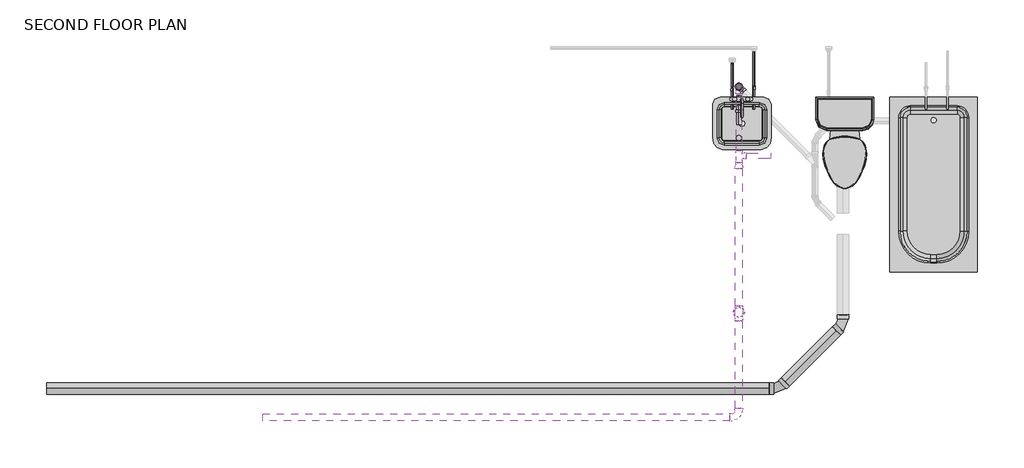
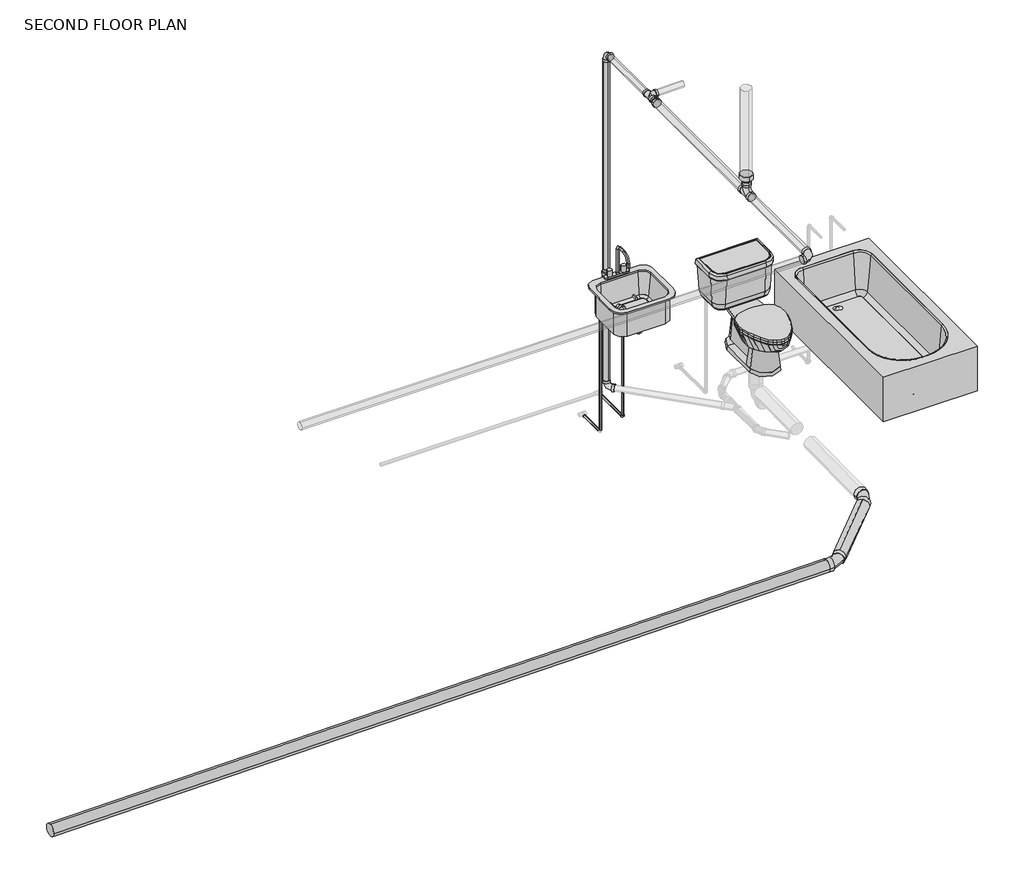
# One storey, part 1 of 2: 20 pipe segments, 15 pipe fittings, 3 flow terminals.
"""IFC4 building model written with IfcOpenShell, lengths in millimetres."""

from ifc_helpers import new_model, si_unit, point, frame, frame_2d, origin, place, context, project, spatial, circle_curve, trimmed, segment, composite_curve, outline, extrude, transform, mapped, element, save
from components import flow_terminal_62a433f7, toilet_domestic_3d1_toilet_domestic_3d_f7549cf7, toilet_domestic_3d1_toilet_domestic_3d_183bbd19, tub_rectangular_3d_tub_rectangular_5_8ae3ddee, bend_pvc_sch_40_dwv_standard_738aab8b, bend_pvc_sch_40_dwv_standard_cc7cb89c, bend_pvc_sch_40_dwv_standard_a5322a10, bend_pvc_sch_40_dwv_standard_1eaeee76, bend_pvc_sch_40_dwv_standard_a0c8f803, bend_pvc_sch_40_dwv_standard_4b577b06, pipe_elbow_copper_k_aad62f2d, pipe_elbow_copper_k_17cc7089, pipe_transition_copper_k_e545d381, reducer_pvc_sch_40_dwv_standard_b23fa098, reducer_pvc_sch_40_dwv_standard_44865e00, reducer_pvc_sch_40_dwv_standard_230e9924, tee_sanitary_pvc_sch_40_dwv_standard_4981b708, tee_sanitary_pvc_sch_40_dwv_standard_7b7ecc20

model = new_model("IFC4")

# Units and contexts
model_context = context("Model", 3, world=origin())
ifc_project = project(units=[si_unit("LENGTHUNIT", "METRE", prefix="MILLI")], contexts=[model_context])

# Site, building, storey
site = spatial("IfcSite", under=ifc_project)
building = spatial("IfcBuilding", under=site)
storey = spatial("IfcBuildingStorey", under=building, Name="SECOND FLOOR PLAN", Elevation=2844.8)

# Flow terminals
placement = place(None, origin())
flow_terminal_shape = flow_terminal_62a433f7(model_context)
element("IfcFlowTerminal", 1, ObjectType="Sink Vanity-Square : 20\" x 18\"", at=placement, inside=storey, context=model_context, shape_type="MappedRepresentation", body=[
    mapped(flow_terminal_shape, transform((17708.6313231, 9500.9911295, 2844.8), x_axis=(1.0, 0.0, 0.0), y_axis=(0.0, 1.0, 0.0), z_axis=(0.0, 0.0, 1.0))),
])
toilet_domestic_3d1_toilet_domestic_3d_shape = toilet_domestic_3d1_toilet_domestic_3d_f7549cf7(model_context)
toilet_domestic_3d1_toilet_domestic_3d_2_shape = toilet_domestic_3d1_toilet_domestic_3d_183bbd19(model_context)
element("IfcFlowTerminal", 2, ObjectType="Toilet-Domestic-3D1 : Toilet-Domestic-3D", at=placement, inside=storey, context=model_context, shape_type="MappedRepresentation", body=[
    mapped(toilet_domestic_3d1_toilet_domestic_3d_shape, transform((18619.0254798, 9186.4405033, 2844.8), x_axis=(1.0, 0.0, 0.0), y_axis=(0.0, 1.0, 0.0), z_axis=(0.0, 0.0, 1.0))),
    mapped(toilet_domestic_3d1_toilet_domestic_3d_2_shape, transform((18619.0254798, 9186.4405033, 2844.8), x_axis=(1.0, 0.0, 0.0), y_axis=(0.0, 1.0, 0.0), z_axis=(0.0, 0.0, 1.0))),
])
tub_rectangular_3d_tub_rectangular_5_shape = tub_rectangular_3d_tub_rectangular_5_8ae3ddee(model_context)
element("IfcFlowTerminal", 3, ObjectType="Tub-Rectangular-3D : Tub-Rectangular-3D", at=placement, inside=storey, context=model_context, shape_type="MappedRepresentation", body=[
    mapped(tub_rectangular_3d_tub_rectangular_5_shape, transform((19774.0113667, 8570.5335619, 2844.8), x_axis=(0.0, -1.0, 0.0), y_axis=(1.0, 0.0, 0.0), z_axis=(0.0, 0.0, 1.0))),
])

# Pipe fittings
bend_pvc_sch_40_dwv_standard_shape = bend_pvc_sch_40_dwv_standard_738aab8b(model_context)
element("IfcPipeFitting", 4, ObjectType="Bend - PVC - Sch 40 - DWV : Standard", at=placement, inside=storey, context=model_context, shape_type="MappedRepresentation", body=[
    mapped(bend_pvc_sch_40_dwv_standard_shape, transform((17697.8518002, 9769.7619823, 5486.4), x_axis=(0.0, 0.0, 1.0), y_axis=(0.0, -1.0, 0.0), z_axis=(1.0, 0.0, 0.0))),
])
bend_pvc_sch_40_dwv_standard_2_shape = bend_pvc_sch_40_dwv_standard_cc7cb89c(model_context)
element("IfcPipeFitting", 5, ObjectType="Bend - PVC - Sch 40 - DWV : Standard", at=placement, inside=storey, context=model_context, shape_type="MappedRepresentation", body=[
    mapped(bend_pvc_sch_40_dwv_standard_2_shape, transform((17697.8518002, 9595.4527118, 3422.4515567), x_axis=(0.0, 1.0, 0.0), y_axis=(0.0, 0.0, -1.0), z_axis=(-1.0, 0.0, 0.0))),
])
bend_pvc_sch_40_dwv_standard_3_shape = bend_pvc_sch_40_dwv_standard_a5322a10(model_context)
element("IfcPipeFitting", 6, ObjectType="Bend - PVC - Sch 40 - DWV : Standard", at=placement, inside=storey, context=model_context, shape_type="MappedRepresentation", body=[
    mapped(bend_pvc_sch_40_dwv_standard_3_shape, transform((18605.6344688, 7702.348888, 2605.0449561), x_axis=(0.707068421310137, 0.7070684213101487, 0.01041610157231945), y_axis=(-0.7071319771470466, 0.7070684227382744, 0.004314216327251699), z_axis=(-0.004314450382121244, -0.010416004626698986, 0.9999364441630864))),
])
bend_pvc_sch_40_dwv_standard_4_shape = bend_pvc_sch_40_dwv_standard_1eaeee76(model_context)
element("IfcPipeFitting", 7, ObjectType="Bend - PVC - Sch 40 - DWV : Standard", at=placement, inside=storey, context=model_context, shape_type="MappedRepresentation", body=[
    mapped(bend_pvc_sch_40_dwv_standard_4_shape, transform((17697.8518002, 6891.7049895, 5486.4), x_axis=(1.0, 0.0, 0.0), y_axis=(0.0, 1.0, 0.0), z_axis=(0.0, 0.0, 1.0))),
])
bend_pvc_sch_40_dwv_standard_5_shape = bend_pvc_sch_40_dwv_standard_a0c8f803(model_context)
element("IfcPipeFitting", 8, ObjectType="Bend - PVC - Sch 40 - DWV : Standard", at=placement, inside=storey, context=model_context, shape_type="MappedRepresentation", body=[
    mapped(bend_pvc_sch_40_dwv_standard_5_shape, transform((18045.3928551, 7142.1072744, 2596.7918177), x_axis=(0.999948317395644, 0.0, 0.010166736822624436), y_axis=(-4.6399416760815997e-05, 0.9999895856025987, 0.004563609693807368), z_axis=(-0.010166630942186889, -0.004563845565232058, 0.9999379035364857))),
])
bend_pvc_sch_40_dwv_standard_6_shape = bend_pvc_sch_40_dwv_standard_4b577b06(model_context)
element("IfcPipeFitting", 9, ObjectType="Bend - PVC - Sch 40 - DWV : Standard", at=placement, inside=storey, context=model_context, shape_type="MappedRepresentation", body=[
    mapped(bend_pvc_sch_40_dwv_standard_6_shape, transform((17697.8516892, 9769.7618713, 2627.5146152), x_axis=(-0.7070925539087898, 0.7070728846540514, 0.008249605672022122), y_axis=(0.0058352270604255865, -0.005831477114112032, 0.9999659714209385), z_axis=(0.7070969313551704, 0.7071166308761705, -2.536784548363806e-06))),
])
pipe_elbow_copper_k_shape = pipe_elbow_copper_k_aad62f2d(model_context)
element("IfcPipeFitting", 10, ObjectType="Pipe Elbow : Copper- K", at=placement, inside=storey, context=model_context, shape_type="MappedRepresentation", body=[
    mapped(pipe_elbow_copper_k_shape, transform((17639.2645251, 9751.2226376, 3454.4), x_axis=(0.0, 0.0, 1.0), y_axis=(0.0, -1.0, 0.0), z_axis=(1.0, 0.0, 0.0))),
])
element("IfcPipeFitting", 11, ObjectType="Pipe Elbow : Copper- K", at=placement, inside=storey, context=model_context, shape_type="MappedRepresentation", body=[
    mapped(pipe_elbow_copper_k_shape, transform((17827.7152409, 9764.0381796, 3454.4), x_axis=(0.0, 0.0, 1.0), y_axis=(0.0, -1.0, 0.0), z_axis=(1.0, 0.0, 0.0))),
])
pipe_elbow_copper_k_2_shape = pipe_elbow_copper_k_17cc7089(model_context)
element("IfcPipeFitting", 12, ObjectType="Pipe Elbow : Copper- K", at=placement, inside=storey, context=model_context, shape_type="MappedRepresentation", body=[
    mapped(pipe_elbow_copper_k_2_shape, transform((17827.7152409, 9764.0381796, 2328.0686805), x_axis=(0.0, 0.0, -1.0), y_axis=(0.0, 1.0, 0.0), z_axis=(1.0, 0.0, 0.0))),
])
pipe_transition_copper_k_shape = pipe_transition_copper_k_e545d381(model_context)
element("IfcPipeFitting", 13, ObjectType="Pipe Transition : Copper- K", at=placement, inside=storey, context=model_context, shape_type="MappedRepresentation", body=[
    mapped(pipe_transition_copper_k_shape, transform((17639.2645251, 9978.2351382, 2271.8535597), x_axis=(0.0, -0.9999999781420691, -0.00020908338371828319), y_axis=(1.0, 0.0, 0.0), z_axis=(0.0, -0.00020908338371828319, 0.9999999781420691))),
])
reducer_pvc_sch_40_dwv_standard_shape = reducer_pvc_sch_40_dwv_standard_b23fa098(model_context)
element("IfcPipeFitting", 14, ObjectType="Reducer - PVC - Sch 40 - DWV : Standard", at=placement, inside=storey, context=model_context, shape_type="MappedRepresentation", body=[
    mapped(reducer_pvc_sch_40_dwv_standard_shape, transform((17697.8518002, 9769.7619823, 3594.9686761), x_axis=(0.0, 0.0, 1.0), y_axis=(0.0, -1.0, 0.0), z_axis=(1.0, 0.0, 0.0))),
])
reducer_pvc_sch_40_dwv_standard_2_shape = reducer_pvc_sch_40_dwv_standard_44865e00(model_context)
element("IfcPipeFitting", 15, ObjectType="Reducer - PVC - Sch 40 - DWV : Standard", at=placement, inside=storey, context=model_context, shape_type="MappedRepresentation", body=[
    mapped(reducer_pvc_sch_40_dwv_standard_2_shape, transform((17697.8518002, 7806.1049895, 5564.2002), x_axis=(0.0, 0.0, 1.0), y_axis=(-1.0, 0.0, 0.0), z_axis=(0.0, -1.0, 0.0))),
])
reducer_pvc_sch_40_dwv_standard_3_shape = reducer_pvc_sch_40_dwv_standard_230e9924(model_context)
element("IfcPipeFitting", 16, ObjectType="Reducer - PVC - Sch 40 - DWV : Standard", at=placement, inside=storey, context=model_context, shape_type="MappedRepresentation", body=[
    mapped(reducer_pvc_sch_40_dwv_standard_3_shape, transform((17697.8518002, 9108.0617306, 5486.4), x_axis=(0.0, -1.0, 0.0), y_axis=(1.0, 0.0, 0.0), z_axis=(0.0, 0.0, 1.0))),
])
tee_sanitary_pvc_sch_40_dwv_standard_shape = tee_sanitary_pvc_sch_40_dwv_standard_4981b708(model_context)
element("IfcPipeFitting", 17, ObjectType="Tee Sanitary - PVC - Sch 40 - DWV : Standard", at=placement, inside=storey, context=model_context, shape_type="MappedRepresentation", body=[
    mapped(tee_sanitary_pvc_sch_40_dwv_standard_shape, transform((17697.8518002, 9169.9615306, 5486.4), x_axis=(0.0, 1.0, 0.0), y_axis=(-1.0, 0.0, 0.0), z_axis=(0.0, 0.0, 1.0))),
])
tee_sanitary_pvc_sch_40_dwv_standard_2_shape = tee_sanitary_pvc_sch_40_dwv_standard_7b7ecc20(model_context)
element("IfcPipeFitting", 18, ObjectType="Tee Sanitary - PVC - Sch 40 - DWV : Standard", at=placement, inside=storey, context=model_context, shape_type="MappedRepresentation", body=[
    mapped(tee_sanitary_pvc_sch_40_dwv_standard_2_shape, transform((17697.8518002, 7806.1049895, 5486.4), x_axis=(0.0, 1.0, 0.0), y_axis=(0.0, 0.0, -1.0), z_axis=(-1.0, 0.0, 0.0))),
])

# Pipe segments
element("IfcPipeSegment", 19, ObjectType="Cast Iron - SAN/STORM", at=placement, inside=storey, context=model_context, shape_type="SweptSolid", body=[
    extrude(outline(composite_curve([segment(trimmed(circle_curve(frame_2d((0.0, 50.403125)), 50.403125), [point((0.0, 0.0))], [point((-50.403125, 50.403125))], False, "CARTESIAN"), True, "CONTINUOUS"), segment(trimmed(circle_curve(frame_2d((0.0, 50.403125)), 50.403125), [point((-50.403125, 50.403125))], [point((0.0, 100.80625))], False, "CARTESIAN"), True, "CONTINUOUS"), segment(trimmed(circle_curve(frame_2d((0.0, 50.403125)), 50.403125), [point((0.0, 100.80625))], [point((50.403125, 50.403125))], False, "CARTESIAN"), True, "CONTINUOUS"), segment(trimmed(circle_curve(frame_2d((0.0, 50.403125)), 50.403125), [point((50.403125, 50.403125))], [point((0.0, 0.0))], False, "CARTESIAN"), True, "CONTINUOUS")], self_intersect=False)), frame((11672.7680751, 7091.7041494, 2531.9996701), z_axis=(0.9999483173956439, 0.0, 0.010166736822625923), x_axis=(0.010166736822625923, 0.0, -0.9999483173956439)), (0.0, 0.0, 1.0), 6290.4041509),
])
element("IfcPipeSegment", 20, ObjectType="Cast Iron - SAN/STORM", at=placement, inside=storey, context=model_context, shape_type="SweptSolid", body=[
    extrude(outline(composite_curve([segment(trimmed(circle_curve(frame_2d((0.0, 50.403125)), 50.403125), [point((50.400391, 49.8781494))], [point((-0.5249755, 0.002734))], False, "CARTESIAN"), True, "CONTINUOUS"), segment(trimmed(circle_curve(frame_2d((0.0, 50.403125)), 50.403125), [point((-0.5249755, 0.002734))], [point((-50.4003909, 50.9281006))], False, "CARTESIAN"), True, "CONTINUOUS"), segment(trimmed(circle_curve(frame_2d((0.0, 50.403125)), 50.403125), [point((-50.4003909, 50.9281006))], [point((0.5249756, 100.803516))], False, "CARTESIAN"), True, "CONTINUOUS"), segment(trimmed(circle_curve(frame_2d((0.0, 50.403125)), 50.403125), [point((0.5249756, 100.803516))], [point((50.400391, 49.8781494))], False, "CARTESIAN"), True, "CONTINUOUS")], self_intersect=False)), frame((18103.7613533, 7199.733345, 2648.0493237), z_axis=(0.7070684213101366, 0.7070684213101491, 0.010416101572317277), x_axis=(0.7071451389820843, -0.7069917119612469, -0.010414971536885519)), (0.0, 0.0, 1.0), 627.2442721),
])
element("IfcPipeSegment", 21, ObjectType="Cast Iron - SAN/STORM", at=placement, inside=storey, context=model_context, shape_type="SweptSolid", body=[
    extrude(outline(composite_curve([segment(trimmed(circle_curve(frame_2d((17697.8518002, 9769.7619823)), 30.1625), [point((17667.6893002, 9769.7619823))], [point((17697.8518002, 9799.9244823))], False, "CARTESIAN"), True, "CONTINUOUS"), segment(trimmed(circle_curve(frame_2d((17697.8518002, 9769.7619823)), 30.1625), [point((17697.8518002, 9799.9244823))], [point((17728.0143002, 9769.7619823))], False, "CARTESIAN"), True, "CONTINUOUS"), segment(trimmed(circle_curve(frame_2d((17697.8518002, 9769.7619823)), 30.1625), [point((17728.0143002, 9769.7619823))], [point((17697.8518002, 9739.5994823))], False, "CARTESIAN"), True, "CONTINUOUS"), segment(trimmed(circle_curve(frame_2d((17697.8518002, 9769.7619823)), 30.1625), [point((17697.8518002, 9739.5994823))], [point((17667.6893002, 9769.7619823))], False, "CARTESIAN"), True, "CONTINUOUS")], self_intersect=False)), frame((0.0, 0.0, 3407.5687442), z_axis=(0.0, 0.0, 1.0), x_axis=(1.0, 0.0, 0.0)), (0.0, 0.0, 1.0), 187.3999318),
])
element("IfcPipeSegment", 22, ObjectType="Cast Iron - SAN/STORM", at=placement, inside=storey, context=model_context, shape_type="SweptSolid", body=[
    extrude(outline(composite_curve([segment(trimmed(circle_curve(frame_2d((3422.4515567, 17697.8518002)), 24.209375), [point((3422.4515567, 17722.0611752))], [point((3446.6609317, 17697.8518002))], False, "CARTESIAN"), True, "CONTINUOUS"), segment(trimmed(circle_curve(frame_2d((3422.4515567, 17697.8518002)), 24.209375), [point((3446.6609317, 17697.8518002))], [point((3422.4515567, 17673.6424252))], False, "CARTESIAN"), True, "CONTINUOUS"), segment(trimmed(circle_curve(frame_2d((3422.4515567, 17697.8518002)), 24.209375), [point((3422.4515567, 17673.6424252))], [point((3398.2421817, 17697.8518002))], False, "CARTESIAN"), True, "CONTINUOUS"), segment(trimmed(circle_curve(frame_2d((3422.4515567, 17697.8518002)), 24.209375), [point((3398.2421817, 17697.8518002))], [point((3422.4515567, 17722.0611752))], False, "CARTESIAN"), True, "CONTINUOUS")], self_intersect=False)), frame((0.0, 9440.7961846, 0.0), z_axis=(0.0, 1.0, 0.0), x_axis=(0.0, 0.0, 1.0)), (0.0, 0.0, 1.0), 108.6317271),
])
element("IfcPipeSegment", 23, ObjectType="Cast Iron - SAN/STORM", at=placement, inside=storey, context=model_context, shape_type="SweptSolid", body=[
    extrude(outline(composite_curve([segment(trimmed(circle_curve(frame_2d((17697.8559512, 9323.1941846)), 24.209375), [point((17673.6465762, 9323.1941846))], [point((17697.8559512, 9347.4035596))], False, "CARTESIAN"), True, "CONTINUOUS"), segment(trimmed(circle_curve(frame_2d((17697.8559512, 9323.1941846)), 24.209375), [point((17697.8559512, 9347.4035596))], [point((17722.0653262, 9323.1941846))], False, "CARTESIAN"), True, "CONTINUOUS"), segment(trimmed(circle_curve(frame_2d((17697.8559512, 9323.1941846)), 24.209375), [point((17722.0653262, 9323.1941846))], [point((17697.8559512, 9298.9848096))], False, "CARTESIAN"), True, "CONTINUOUS"), segment(trimmed(circle_curve(frame_2d((17697.8559512, 9323.1941846)), 24.209375), [point((17697.8559512, 9298.9848096))], [point((17673.6465762, 9323.1941846))], False, "CARTESIAN"), True, "CONTINUOUS")], self_intersect=False)), frame((0.0, 0.0, 3366.9248589), z_axis=(0.0, 0.0, 1.0), x_axis=(1.0, 0.0, 0.0)), (0.0, 0.0, 1.0), 202.3705313),
])
element("IfcPipeSegment", 24, ObjectType="Cast Iron - SAN/STORM", at=placement, inside=storey, context=model_context, shape_type="SweptSolid", body=[
    extrude(outline(composite_curve([segment(trimmed(circle_curve(frame_2d((0.0, -24.209375)), 24.209375), [point((24.209375, -24.209375))], [point((0.0, -48.41875))], False, "CARTESIAN"), True, "CONTINUOUS"), segment(trimmed(circle_curve(frame_2d((0.0, -24.209375)), 24.209375), [point((0.0, -48.41875))], [point((-24.209375, -24.209375))], False, "CARTESIAN"), True, "CONTINUOUS"), segment(trimmed(circle_curve(frame_2d((0.0, -24.209375)), 24.209375), [point((-24.209375, -24.209375))], [point((0.0, 0.0))], False, "CARTESIAN"), True, "CONTINUOUS"), segment(trimmed(circle_curve(frame_2d((0.0, -24.209375)), 24.209375), [point((0.0, 0.0))], [point((24.209375, -24.209375))], False, "CARTESIAN"), True, "CONTINUOUS")], self_intersect=False)), frame((17697.8518002, 9696.2667772, 3381.7187257), z_axis=(0.0, -0.820496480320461, 0.5716515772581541), x_axis=(1.0, 0.0, 0.0)), (0.0, 0.0, 1.0), 59.9777729),
])
element("IfcPipeSegment", 25, ObjectType="Cast Iron - SAN/STORM", at=placement, inside=storey, context=model_context, shape_type="SweptSolid", body=[
    extrude(outline(composite_curve([segment(trimmed(circle_curve(frame_2d((17697.8518002, 9769.7619823)), 24.209375), [point((17673.6424252, 9769.7619823))], [point((17697.8518002, 9793.9713573))], False, "CARTESIAN"), True, "CONTINUOUS"), segment(trimmed(circle_curve(frame_2d((17697.8518002, 9769.7619823)), 24.209375), [point((17697.8518002, 9793.9713573))], [point((17722.0611752, 9769.7619823))], False, "CARTESIAN"), True, "CONTINUOUS"), segment(trimmed(circle_curve(frame_2d((17697.8518002, 9769.7619823)), 24.209375), [point((17722.0611752, 9769.7619823))], [point((17697.8518002, 9745.5526073))], False, "CARTESIAN"), True, "CONTINUOUS"), segment(trimmed(circle_curve(frame_2d((17697.8518002, 9769.7619823)), 24.209375), [point((17697.8518002, 9745.5526073))], [point((17673.6424252, 9769.7619823))], False, "CARTESIAN"), True, "CONTINUOUS")], self_intersect=False)), frame((0.0, 0.0, 2689.4144152), z_axis=(0.0, 0.0, 1.0), x_axis=(1.0, 0.0, 0.0)), (0.0, 0.0, 1.0), 574.9943728),
])
element("IfcPipeSegment", 26, ObjectType="Cast Iron - VENT", at=placement, inside=storey, context=model_context, shape_type="SweptSolid", body=[
    extrude(outline(composite_curve([segment(trimmed(circle_curve(frame_2d((17697.8518002, 9769.7619823)), 24.209375), [point((17673.6424252, 9769.7619823))], [point((17697.8518002, 9793.9713573))], False, "CARTESIAN"), True, "CONTINUOUS"), segment(trimmed(circle_curve(frame_2d((17697.8518002, 9769.7619823)), 24.209375), [point((17697.8518002, 9793.9713573))], [point((17722.0611752, 9769.7619823))], False, "CARTESIAN"), True, "CONTINUOUS"), segment(trimmed(circle_curve(frame_2d((17697.8518002, 9769.7619823)), 24.209375), [point((17722.0611752, 9769.7619823))], [point((17697.8518002, 9745.5526073))], False, "CARTESIAN"), True, "CONTINUOUS"), segment(trimmed(circle_curve(frame_2d((17697.8518002, 9769.7619823)), 24.209375), [point((17697.8518002, 9745.5526073))], [point((17673.6424252, 9769.7619823))], False, "CARTESIAN"), True, "CONTINUOUS")], self_intersect=False)), frame((0.0, 0.0, 3644.9558761), z_axis=(0.0, 0.0, 1.0), x_axis=(1.0, 0.0, 0.0)), (0.0, 0.0, 1.0), 1779.5443239),
])
element("IfcPipeSegment", 27, ObjectType="Cast Iron - VENT", at=placement, inside=storey, context=model_context, shape_type="SweptSolid", body=[
    extrude(outline(composite_curve([segment(trimmed(circle_curve(frame_2d((5486.4, 17697.8518002)), 30.1625), [point((5486.4, 17667.6893002))], [point((5456.2375, 17697.8518002))], False, "CARTESIAN"), True, "CONTINUOUS"), segment(trimmed(circle_curve(frame_2d((5486.4, 17697.8518002)), 30.1625), [point((5456.2375, 17697.8518002))], [point((5486.4, 17728.0143002))], False, "CARTESIAN"), True, "CONTINUOUS"), segment(trimmed(circle_curve(frame_2d((5486.4, 17697.8518002)), 30.1625), [point((5486.4, 17728.0143002))], [point((5516.5625, 17697.8518002))], False, "CARTESIAN"), True, "CONTINUOUS"), segment(trimmed(circle_curve(frame_2d((5486.4, 17697.8518002)), 30.1625), [point((5516.5625, 17697.8518002))], [point((5486.4, 17667.6893002))], False, "CARTESIAN"), True, "CONTINUOUS")], self_intersect=False)), frame((0.0, 7860.0799895, 0.0), z_axis=(0.0, 1.0, 0.0), x_axis=(0.0, 0.0, 1.0)), (0.0, 0.0, 1.0), 1197.9945411),
])
element("IfcPipeSegment", 28, ObjectType="Cast Iron - VENT", at=placement, inside=storey, context=model_context, shape_type="SweptSolid", body=[
    extrude(outline(composite_curve([segment(trimmed(circle_curve(frame_2d((9169.9615306, 5486.4)), 24.209375), [point((9194.1709056, 5486.4))], [point((9169.9615306, 5462.190625))], False, "CARTESIAN"), True, "CONTINUOUS"), segment(trimmed(circle_curve(frame_2d((9169.9615306, 5486.4)), 24.209375), [point((9169.9615306, 5462.190625))], [point((9145.7521556, 5486.4))], False, "CARTESIAN"), True, "CONTINUOUS"), segment(trimmed(circle_curve(frame_2d((9169.9615306, 5486.4)), 24.209375), [point((9145.7521556, 5486.4))], [point((9169.9615306, 5510.609375))], False, "CARTESIAN"), True, "CONTINUOUS"), segment(trimmed(circle_curve(frame_2d((9169.9615306, 5486.4)), 24.209375), [point((9169.9615306, 5510.609375))], [point((9194.1709056, 5486.4))], False, "CARTESIAN"), True, "CONTINUOUS")], self_intersect=False)), frame((17759.7516002, 0.0, 0.0), z_axis=(1.0, 0.0, 0.0), x_axis=(0.0, 1.0, 0.0)), (0.0, 0.0, 1.0), 213.9029763),
])
element("IfcPipeSegment", 29, ObjectType="Cast Iron - VENT", at=placement, inside=storey, context=model_context, shape_type="SweptSolid", body=[
    extrude(outline(composite_curve([segment(trimmed(circle_curve(frame_2d((5486.4, 17697.8518002)), 24.209375), [point((5486.4, 17673.6424252))], [point((5462.190625, 17697.8518002))], False, "CARTESIAN"), True, "CONTINUOUS"), segment(trimmed(circle_curve(frame_2d((5486.4, 17697.8518002)), 24.209375), [point((5462.190625, 17697.8518002))], [point((5486.4, 17722.0611752))], False, "CARTESIAN"), True, "CONTINUOUS"), segment(trimmed(circle_curve(frame_2d((5486.4, 17697.8518002)), 24.209375), [point((5486.4, 17722.0611752))], [point((5510.609375, 17697.8518002))], False, "CARTESIAN"), True, "CONTINUOUS"), segment(trimmed(circle_curve(frame_2d((5486.4, 17697.8518002)), 24.209375), [point((5510.609375, 17697.8518002))], [point((5486.4, 17673.6424252))], False, "CARTESIAN"), True, "CONTINUOUS")], self_intersect=False)), frame((0.0, 9212.8113306, 0.0), z_axis=(0.0, 1.0, 0.0), x_axis=(0.0, 0.0, 1.0)), (0.0, 0.0, 1.0), 495.0508516),
])
element("IfcPipeSegment", 30, ObjectType="Copper", at=placement, inside=storey, context=model_context, shape_type="SweptSolid", body=[
    extrude(outline(composite_curve([segment(trimmed(circle_curve(frame_2d((0.0, -7.9375)), 7.9375), [point((0.0, 0.0))], [point((7.9375, -7.9375))], False, "CARTESIAN"), True, "CONTINUOUS"), segment(trimmed(circle_curve(frame_2d((0.0, -7.9375)), 7.9375), [point((7.9375, -7.9375))], [point((0.0, -15.875))], False, "CARTESIAN"), True, "CONTINUOUS"), segment(trimmed(circle_curve(frame_2d((0.0, -7.9375)), 7.9375), [point((0.0, -15.875))], [point((-7.9375, -7.9375))], False, "CARTESIAN"), True, "CONTINUOUS"), segment(trimmed(circle_curve(frame_2d((0.0, -7.9375)), 7.9375), [point((-7.9375, -7.9375))], [point((0.0, 0.0))], False, "CARTESIAN"), True, "CONTINUOUS")], self_intersect=False)), frame((17631.3270251, 9768.6887887, 2271.8152237), z_axis=(0.0, 0.9999999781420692, 0.00020908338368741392), x_axis=(0.0, 0.00020908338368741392, -0.9999999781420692)), (0.0, 0.0, 1.0), 203.9901029),
])
element("IfcPipeSegment", 31, ObjectType="Copper", at=placement, inside=storey, context=model_context, shape_type="SweptSolid", body=[
    extrude(outline(composite_curve([segment(trimmed(circle_curve(frame_2d((3454.4, 17639.2645251)), 7.9375), [point((3454.4, 17631.3270251))], [point((3446.4625, 17639.2645251))], False, "CARTESIAN"), True, "CONTINUOUS"), segment(trimmed(circle_curve(frame_2d((3454.4, 17639.2645251)), 7.9375), [point((3446.4625, 17639.2645251))], [point((3454.4, 17647.2020251))], False, "CARTESIAN"), True, "CONTINUOUS"), segment(trimmed(circle_curve(frame_2d((3454.4, 17639.2645251)), 7.9375), [point((3454.4, 17647.2020251))], [point((3462.3375, 17639.2645251))], False, "CARTESIAN"), True, "CONTINUOUS"), segment(trimmed(circle_curve(frame_2d((3454.4, 17639.2645251)), 7.9375), [point((3462.3375, 17639.2645251))], [point((3454.4, 17631.3270251))], False, "CARTESIAN"), True, "CONTINUOUS")], self_intersect=False)), frame((0.0, 9573.4226376, 0.0), z_axis=(0.0, 1.0, 0.0), x_axis=(0.0, 0.0, 1.0)), (0.0, 0.0, 1.0), 160.3375),
])
element("IfcPipeSegment", 32, ObjectType="Copper", at=placement, inside=storey, context=model_context, shape_type="SweptSolid", body=[
    extrude(outline(composite_curve([segment(trimmed(circle_curve(frame_2d((17639.2645251, 9751.2226376)), 7.9375), [point((17631.3270251, 9751.2226376))], [point((17639.2645251, 9759.1601376))], False, "CARTESIAN"), True, "CONTINUOUS"), segment(trimmed(circle_curve(frame_2d((17639.2645251, 9751.2226376)), 7.9375), [point((17639.2645251, 9759.1601376))], [point((17647.2020251, 9751.2226376))], False, "CARTESIAN"), True, "CONTINUOUS"), segment(trimmed(circle_curve(frame_2d((17639.2645251, 9751.2226376)), 7.9375), [point((17647.2020251, 9751.2226376))], [point((17639.2645251, 9743.2851376))], False, "CARTESIAN"), True, "CONTINUOUS"), segment(trimmed(circle_curve(frame_2d((17639.2645251, 9751.2226376)), 7.9375), [point((17639.2645251, 9743.2851376))], [point((17631.3270251, 9751.2226376))], False, "CARTESIAN"), True, "CONTINUOUS")], self_intersect=False)), frame((0.0, 0.0, 2289.2777233), z_axis=(0.0, 0.0, 1.0), x_axis=(1.0, 0.0, 0.0)), (0.0, 0.0, 1.0), 1147.6597767),
])
element("IfcPipeSegment", 33, ObjectType="Copper", at=placement, inside=storey, context=model_context, shape_type="SweptSolid", body=[
    extrude(outline(composite_curve([segment(trimmed(circle_curve(frame_2d((0.0, -7.9375)), 7.9375), [point((0.0, 0.0))], [point((7.9375, -7.9375))], False, "CARTESIAN"), True, "CONTINUOUS"), segment(trimmed(circle_curve(frame_2d((0.0, -7.9375)), 7.9375), [point((7.9375, -7.9375))], [point((0.0, -15.875))], False, "CARTESIAN"), True, "CONTINUOUS"), segment(trimmed(circle_curve(frame_2d((0.0, -7.9375)), 7.9375), [point((0.0, -15.875))], [point((-7.9375, -7.9375))], False, "CARTESIAN"), True, "CONTINUOUS"), segment(trimmed(circle_curve(frame_2d((0.0, -7.9375)), 7.9375), [point((-7.9375, -7.9375))], [point((0.0, 0.0))], False, "CARTESIAN"), True, "CONTINUOUS")], self_intersect=False)), frame((17819.7777409, 9781.5012945, 2328.0692955), z_axis=(0.0, 0.99999999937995, 3.52150538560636e-05), x_axis=(0.0, 3.52150538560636e-05, -0.99999999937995)), (0.0, 0.0, 1.0), 292.8931353),
])
element("IfcPipeSegment", 34, ObjectType="Copper", at=placement, inside=storey, context=model_context, shape_type="SweptSolid", body=[
    extrude(outline(composite_curve([segment(trimmed(circle_curve(frame_2d((3454.4, 17827.7152409)), 7.9375), [point((3454.4, 17819.7777409))], [point((3446.4625, 17827.7152409))], False, "CARTESIAN"), True, "CONTINUOUS"), segment(trimmed(circle_curve(frame_2d((3454.4, 17827.7152409)), 7.9375), [point((3446.4625, 17827.7152409))], [point((3454.4, 17835.6527409))], False, "CARTESIAN"), True, "CONTINUOUS"), segment(trimmed(circle_curve(frame_2d((3454.4, 17827.7152409)), 7.9375), [point((3454.4, 17835.6527409))], [point((3462.3375, 17827.7152409))], False, "CARTESIAN"), True, "CONTINUOUS"), segment(trimmed(circle_curve(frame_2d((3454.4, 17827.7152409)), 7.9375), [point((3462.3375, 17827.7152409))], [point((3454.4, 17819.7777409))], False, "CARTESIAN"), True, "CONTINUOUS")], self_intersect=False)), frame((0.0, 9573.4226376, 0.0), z_axis=(0.0, 1.0, 0.0), x_axis=(0.0, 0.0, 1.0)), (0.0, 0.0, 1.0), 173.153042),
])
element("IfcPipeSegment", 35, ObjectType="Copper", at=placement, inside=storey, context=model_context, shape_type="SweptSolid", body=[
    extrude(outline(composite_curve([segment(trimmed(circle_curve(frame_2d((17827.7152409, 9764.0381796)), 7.9375), [point((17819.7777409, 9764.0381796))], [point((17827.7152409, 9771.9756796))], False, "CARTESIAN"), True, "CONTINUOUS"), segment(trimmed(circle_curve(frame_2d((17827.7152409, 9764.0381796)), 7.9375), [point((17827.7152409, 9771.9756796))], [point((17835.6527409, 9764.0381796))], False, "CARTESIAN"), True, "CONTINUOUS"), segment(trimmed(circle_curve(frame_2d((17827.7152409, 9764.0381796)), 7.9375), [point((17835.6527409, 9764.0381796))], [point((17827.7152409, 9756.1006796))], False, "CARTESIAN"), True, "CONTINUOUS"), segment(trimmed(circle_curve(frame_2d((17827.7152409, 9764.0381796)), 7.9375), [point((17827.7152409, 9756.1006796))], [point((17819.7777409, 9764.0381796))], False, "CARTESIAN"), True, "CONTINUOUS")], self_intersect=False)), frame((0.0, 0.0, 2345.5317955), z_axis=(0.0, 0.0, 1.0), x_axis=(1.0, 0.0, 0.0)), (0.0, 0.0, 1.0), 1091.4057045),
])
element("IfcPipeSegment", 36, ObjectType="PVC - VENT", at=placement, inside=storey, context=model_context, shape_type="SweptSolid", body=[
    extrude(outline(composite_curve([segment(trimmed(circle_curve(frame_2d((6891.7049895, 5486.4)), 30.1625), [point((6861.5424895, 5486.4))], [point((6891.7049895, 5516.5625))], False, "CARTESIAN"), True, "CONTINUOUS"), segment(trimmed(circle_curve(frame_2d((6891.7049895, 5486.4)), 30.1625), [point((6891.7049895, 5516.5625))], [point((6921.8674895, 5486.4))], False, "CARTESIAN"), True, "CONTINUOUS"), segment(trimmed(circle_curve(frame_2d((6891.7049895, 5486.4)), 30.1625), [point((6921.8674895, 5486.4))], [point((6891.7049895, 5456.2375))], False, "CARTESIAN"), True, "CONTINUOUS"), segment(trimmed(circle_curve(frame_2d((6891.7049895, 5486.4)), 30.1625), [point((6891.7049895, 5456.2375))], [point((6861.5424895, 5486.4))], False, "CARTESIAN"), True, "CONTINUOUS")], self_intersect=False)), frame((13553.3256798, 0.0, 0.0), z_axis=(1.0, 0.0, 0.0), x_axis=(0.0, 1.0, 0.0)), (0.0, 0.0, 1.0), 4066.7259204),
])
element("IfcPipeSegment", 37, ObjectType="PVC - VENT", at=placement, inside=storey, context=model_context, shape_type="SweptSolid", body=[
    extrude(outline(composite_curve([segment(trimmed(circle_curve(frame_2d((5486.4, 17697.8518002)), 30.1625), [point((5486.4, 17728.0143002))], [point((5516.5625, 17697.8518002))], False, "CARTESIAN"), True, "CONTINUOUS"), segment(trimmed(circle_curve(frame_2d((5486.4, 17697.8518002)), 30.1625), [point((5516.5625, 17697.8518002))], [point((5486.4, 17667.6893002))], False, "CARTESIAN"), True, "CONTINUOUS"), segment(trimmed(circle_curve(frame_2d((5486.4, 17697.8518002)), 30.1625), [point((5486.4, 17667.6893002))], [point((5456.2375, 17697.8518002))], False, "CARTESIAN"), True, "CONTINUOUS"), segment(trimmed(circle_curve(frame_2d((5486.4, 17697.8518002)), 30.1625), [point((5456.2375, 17697.8518002))], [point((5486.4, 17728.0143002))], False, "CARTESIAN"), True, "CONTINUOUS")], self_intersect=False)), frame((0.0, 6969.5051895, 0.0), z_axis=(0.0, 1.0, 0.0), x_axis=(0.0, 0.0, 1.0)), (0.0, 0.0, 1.0), 758.7996),
])
element("IfcPipeSegment", 38, ObjectType="PVC - VENT", at=placement, inside=storey, context=model_context, shape_type="SweptSolid", body=[
    extrude(outline(composite_curve([segment(trimmed(circle_curve(frame_2d((17697.8518002, 7806.1049895)), 44.45), [point((17653.4018002, 7806.1049895))], [point((17697.8518002, 7850.5549895))], False, "CARTESIAN"), True, "CONTINUOUS"), segment(trimmed(circle_curve(frame_2d((17697.8518002, 7806.1049895)), 44.45), [point((17697.8518002, 7850.5549895))], [point((17742.3018002, 7806.1049895))], False, "CARTESIAN"), True, "CONTINUOUS"), segment(trimmed(circle_curve(frame_2d((17697.8518002, 7806.1049895)), 44.45), [point((17742.3018002, 7806.1049895))], [point((17697.8518002, 7761.6549895))], False, "CARTESIAN"), True, "CONTINUOUS"), segment(trimmed(circle_curve(frame_2d((17697.8518002, 7806.1049895)), 44.45), [point((17697.8518002, 7761.6549895))], [point((17653.4018002, 7806.1049895))], False, "CARTESIAN"), True, "CONTINUOUS")], self_intersect=False)), frame((0.0, 0.0, 5643.5752), z_axis=(0.0, 0.0, 1.0), x_axis=(1.0, 0.0, 0.0)), (0.0, 0.0, 1.0), 733.4370342),
])

save(model, "model.ifc")
